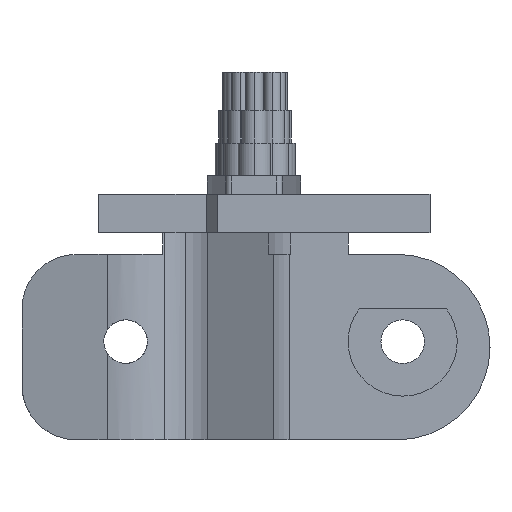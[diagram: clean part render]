
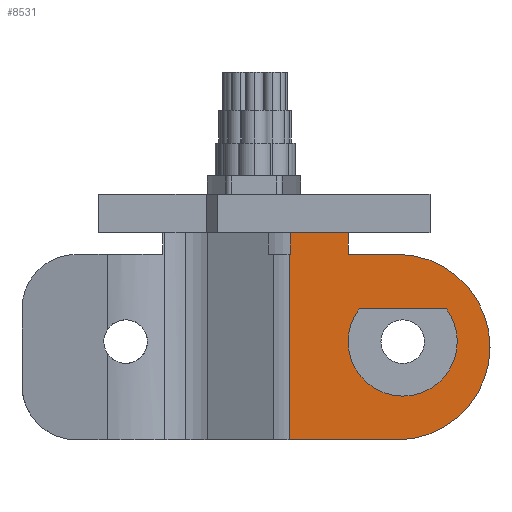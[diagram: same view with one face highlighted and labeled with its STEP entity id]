
A CAD part, left-side view. The second image highlights one B-rep face of the part: STEP entity #8531.
In plain terms, the highlighted planar face has unit normal (-1, 0, 0).
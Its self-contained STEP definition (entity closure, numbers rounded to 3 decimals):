
#710 = VERTEX_POINT ( 'NONE', #1968 ) ;
#750 = EDGE_CURVE ( 'NONE', #1001, #8694, #2007, .T. ) ;
#754 = EDGE_CURVE ( 'NONE', #710, #8733, #2012, .T. ) ;
#1001 = VERTEX_POINT ( 'NONE', #2060 ) ;
#1968 = CARTESIAN_POINT ( 'NONE',  ( 167.4, 56.8, -9.3 ) ) ;
#1998 = CARTESIAN_POINT ( 'NONE',  ( 167.4, 61.8, -9.3 ) ) ;
#2002 = AXIS2_PLACEMENT_3D ( 'NONE', #1998, #2068, #2067 ) ;
#2003 = DIRECTION ( 'NONE',  ( 0., -1., 0. ) ) ;
#2004 = DIRECTION ( 'NONE',  ( 1., 0., 0. ) ) ;
#2005 = CARTESIAN_POINT ( 'NONE',  ( 167.4, 62.3, -9.8 ) ) ;
#2006 = AXIS2_PLACEMENT_3D ( 'NONE', #2005, #2004, #2003 ) ;
#2007 = CIRCLE ( 'NONE', #2006, 8.5 ) ;
#2012 = CIRCLE ( 'NONE', #2002, 5. ) ;
#2060 = CARTESIAN_POINT ( 'NONE',  ( 167.4, 53.8, -9.8 ) ) ;
#2067 = DIRECTION ( 'NONE',  ( 0., 1., 0. ) ) ;
#2068 = DIRECTION ( 'NONE',  ( -1., 0., 0. ) ) ;
#5910 = CARTESIAN_POINT ( 'NONE',  ( 167.4, 53.8, -1.3 ) ) ;
#5913 = LINE ( 'NONE', #5910, #5966 ) ;
#5915 = CARTESIAN_POINT ( 'NONE',  ( 167.4, 72.115, -1.3 ) ) ;
#5933 = CARTESIAN_POINT ( 'NONE',  ( 167.4, 72.216, -18.3 ) ) ;
#5957 = CARTESIAN_POINT ( 'NONE',  ( 167.4, 65.8, -6.3 ) ) ;
#5965 = DIRECTION ( 'NONE',  ( 0., -1., 0. ) ) ;
#5966 = VECTOR ( 'NONE', #5965, 1000. ) ;
#5981 = DIRECTION ( 'NONE',  ( 0., 1., 0. ) ) ;
#5982 = DIRECTION ( 'NONE',  ( -1., 0., 0. ) ) ;
#5983 = CARTESIAN_POINT ( 'NONE',  ( 167.4, 61.8, -9.3 ) ) ;
#5989 = AXIS2_PLACEMENT_3D ( 'NONE', #5983, #5982, #5981 ) ;
#5994 = CIRCLE ( 'NONE', #5989, 5. ) ;
#5995 = CARTESIAN_POINT ( 'NONE',  ( 167.4, 62.3, -1.3 ) ) ;
#5996 = CARTESIAN_POINT ( 'NONE',  ( 167.4, 72.216, -1.3 ) ) ;
#6010 = CIRCLE ( 'NONE', #6035, 8.5 ) ;
#6011 = DIRECTION ( 'NONE',  ( 0., 1., 0. ) ) ;
#6012 = VECTOR ( 'NONE', #6011, 1000. ) ;
#6013 = CARTESIAN_POINT ( 'NONE',  ( 167.4, 53.8, -6.3 ) ) ;
#6014 = LINE ( 'NONE', #6013, #6012 ) ;
#6018 = DIRECTION ( 'NONE',  ( 0., -1., 0. ) ) ;
#6019 = VECTOR ( 'NONE', #6018, 1000. ) ;
#6022 = CARTESIAN_POINT ( 'NONE',  ( 167.4, 53.8, -1.3 ) ) ;
#6023 = LINE ( 'NONE', #6022, #6019 ) ;
#6035 = AXIS2_PLACEMENT_3D ( 'NONE', #6075, #6074, #6073 ) ;
#6055 = CARTESIAN_POINT ( 'NONE',  ( 167.4, 66.8, -1.3 ) ) ;
#6073 = DIRECTION ( 'NONE',  ( 0., -1., 0. ) ) ;
#6074 = DIRECTION ( 'NONE',  ( 1., 0., 0. ) ) ;
#6075 = CARTESIAN_POINT ( 'NONE',  ( 167.4, 62.3, -9.8 ) ) ;
#6202 = LINE ( 'NONE', #6283, #6282 ) ;
#6281 = DIRECTION ( 'NONE',  ( 0., 1., 0. ) ) ;
#6282 = VECTOR ( 'NONE', #6281, 1000. ) ;
#6283 = CARTESIAN_POINT ( 'NONE',  ( 167.4, 53.8, -18.3 ) ) ;
#6294 = DIRECTION ( 'NONE',  ( 0., 0., 1. ) ) ;
#6295 = VECTOR ( 'NONE', #6294, 1000. ) ;
#6307 = CARTESIAN_POINT ( 'NONE',  ( 167.4, 72.216, -18.3 ) ) ;
#6308 = LINE ( 'NONE', #6307, #6295 ) ;
#6961 = VECTOR ( 'NONE', #6989, 1000. ) ;
#6966 = CARTESIAN_POINT ( 'NONE',  ( 167.4, 88.7, 0.7 ) ) ;
#6989 = DIRECTION ( 'NONE',  ( 0., 1., 0. ) ) ;
#6994 = LINE ( 'NONE', #6966, #6961 ) ;
#6996 = CARTESIAN_POINT ( 'NONE',  ( 167.4, 72.115, 0.7 ) ) ;
#7000 = FACE_OUTER_BOUND ( 'NONE', #8540, .T. ) ;
#7001 = FACE_BOUND ( 'NONE', #8491, .T. ) ;
#7011 = DIRECTION ( 'NONE',  ( 0., 0., -1. ) ) ;
#7012 = VECTOR ( 'NONE', #7011, 1000. ) ;
#7013 = CARTESIAN_POINT ( 'NONE',  ( 167.4, 66.8, -18.3 ) ) ;
#7014 = LINE ( 'NONE', #7013, #7012 ) ;
#7015 = CARTESIAN_POINT ( 'NONE',  ( 167.4, 66.8, 0.7 ) ) ;
#7036 = AXIS2_PLACEMENT_3D ( 'NONE', #7074, #7073, #7072 ) ;
#7037 = PLANE ( 'NONE',  #7036 ) ;
#7072 = DIRECTION ( 'NONE',  ( 0., 1., 0. ) ) ;
#7073 = DIRECTION ( 'NONE',  ( 1., 0., 0. ) ) ;
#7074 = CARTESIAN_POINT ( 'NONE',  ( 167.4, 53.8, -18.3 ) ) ;
#7089 = DIRECTION ( 'NONE',  ( 0., 0., 1. ) ) ;
#7090 = VECTOR ( 'NONE', #7089, 1000. ) ;
#7094 = LINE ( 'NONE', #7096, #7090 ) ;
#7096 = CARTESIAN_POINT ( 'NONE',  ( 167.4, 72.115, 0.7 ) ) ;
#7441 = CARTESIAN_POINT ( 'NONE',  ( 167.4, 62.3, -18.3 ) ) ;
#7525 = DIRECTION ( 'NONE',  ( 0., 1., 0. ) ) ;
#7526 = DIRECTION ( 'NONE',  ( -1., 0., 0. ) ) ;
#7527 = CARTESIAN_POINT ( 'NONE',  ( 167.4, 61.8, -9.3 ) ) ;
#7528 = AXIS2_PLACEMENT_3D ( 'NONE', #7527, #7526, #7525 ) ;
#7533 = CIRCLE ( 'NONE', #7528, 5. ) ;
#7547 = CARTESIAN_POINT ( 'NONE',  ( 167.4, 57.8, -6.3 ) ) ;
#7612 = CARTESIAN_POINT ( 'NONE',  ( 167.4, 66.8, -9.3 ) ) ;
#8097 = EDGE_CURVE ( 'NONE', #8136, #8111, #5913, .T. ) ;
#8098 = VERTEX_POINT ( 'NONE', #5933 ) ;
#8102 = VERTEX_POINT ( 'NONE', #5957 ) ;
#8111 = VERTEX_POINT ( 'NONE', #5915 ) ;
#8123 = VERTEX_POINT ( 'NONE', #5995 ) ;
#8133 = EDGE_CURVE ( 'NONE', #8102, #8748, #5994, .T. ) ;
#8136 = VERTEX_POINT ( 'NONE', #5996 ) ;
#8141 = EDGE_CURVE ( 'NONE', #8162, #8123, #6023, .T. ) ;
#8142 = EDGE_CURVE ( 'NONE', #8733, #8102, #6014, .T. ) ;
#8155 = EDGE_CURVE ( 'NONE', #8123, #1001, #6010, .T. ) ;
#8162 = VERTEX_POINT ( 'NONE', #6055 ) ;
#8243 = EDGE_CURVE ( 'NONE', #8694, #8098, #6202, .T. ) ;
#8256 = EDGE_CURVE ( 'NONE', #8098, #8136, #6308, .T. ) ;
#8479 = ORIENTED_EDGE ( 'NONE', *, *, #8141, .F. ) ;
#8484 = EDGE_CURVE ( 'NONE', #8502, #8513, #6994, .T. ) ;
#8491 = EDGE_LOOP ( 'NONE', ( #8519, #8504, #8496, #8508 ) ) ;
#8494 = ORIENTED_EDGE ( 'NONE', *, *, #8521, .F. ) ;
#8496 = ORIENTED_EDGE ( 'NONE', *, *, #8727, .F. ) ;
#8502 = VERTEX_POINT ( 'NONE', #7015 ) ;
#8504 = ORIENTED_EDGE ( 'NONE', *, *, #754, .F. ) ;
#8508 = ORIENTED_EDGE ( 'NONE', *, *, #8133, .F. ) ;
#8511 = ORIENTED_EDGE ( 'NONE', *, *, #8256, .F. ) ;
#8513 = VERTEX_POINT ( 'NONE', #6996 ) ;
#8519 = ORIENTED_EDGE ( 'NONE', *, *, #8142, .F. ) ;
#8521 = EDGE_CURVE ( 'NONE', #8502, #8162, #7014, .T. ) ;
#8522 = ORIENTED_EDGE ( 'NONE', *, *, #8484, .T. ) ;
#8531 = ADVANCED_FACE ( 'NONE', ( #7001, #7000 ), #7037, .F. ) ;
#8538 = ORIENTED_EDGE ( 'NONE', *, *, #8155, .F. ) ;
#8540 = EDGE_LOOP ( 'NONE', ( #8494, #8522, #8541, #8543, #8511, #8551, #8552, #8538, #8479 ) ) ;
#8541 = ORIENTED_EDGE ( 'NONE', *, *, #8549, .F. ) ;
#8543 = ORIENTED_EDGE ( 'NONE', *, *, #8097, .F. ) ;
#8549 = EDGE_CURVE ( 'NONE', #8111, #8513, #7094, .T. ) ;
#8551 = ORIENTED_EDGE ( 'NONE', *, *, #8243, .F. ) ;
#8552 = ORIENTED_EDGE ( 'NONE', *, *, #750, .F. ) ;
#8694 = VERTEX_POINT ( 'NONE', #7441 ) ;
#8727 = EDGE_CURVE ( 'NONE', #8748, #710, #7533, .T. ) ;
#8733 = VERTEX_POINT ( 'NONE', #7547 ) ;
#8748 = VERTEX_POINT ( 'NONE', #7612 ) ;
